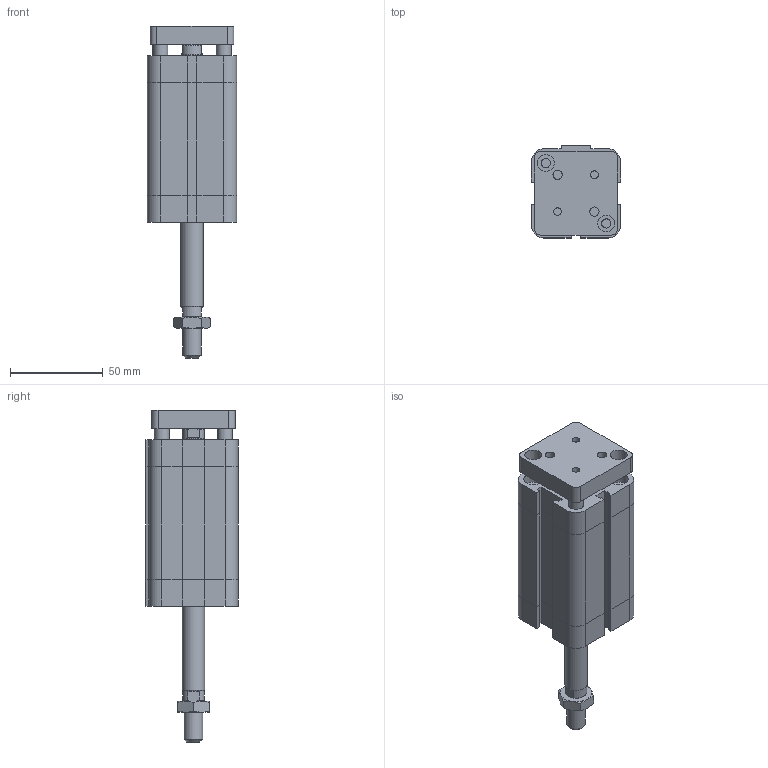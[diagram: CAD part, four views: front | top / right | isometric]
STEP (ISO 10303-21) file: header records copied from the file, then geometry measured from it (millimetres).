
FILE_DESCRIPTION((''),'2;1');
FILE_NAME('I:\Area Tecnica\Disegni\VARIE-3D\Componenti\EUROPE\15##_###_####_09_#\1561_32_0045_09_1.iam.stp','2009-04-20T15:36:08',(''),(''),'Autodesk Inventor 2009','Autodesk Inventor 2009','');
FILE_SCHEMA(('AUTOMOTIVE_DESIGN { 1 0 10303 214 1 1 1 1 }'));
Length unit declared in the file: millimetre
Products named in the file (4): 1561_32_0045_09_1; 1561_32_0045_08_1_C; 1561_32_0045_09_1_SA; DBFM10
Assembly tree (3 placements, depth 2):
  1561_32_0045_09_1
    1561_32_0045_08_1_C
    1561_32_0045_09_1_SA
    DBFM10
Bounding box: 48 x 49.5 x 178.5 mm (x, y, z)
Volume: 215068.8 mm3; surface area: 48674.6 mm2
Topology: 3 solids, 3 shells, 209 faces, 470 edges, 287 vertices
Faces by surface type: plane 120, bspline 45, cylinder 23, cone 21
Full cylindrical faces by diameter (mm): 8 x2, 8.8 x1, 10 x1, 11.7 x2, 12 x1
Entity records: 5963 total; most frequent: CARTESIAN_POINT 1453, DIRECTION 838, ORIENTED_EDGE 834, EDGE_CURVE 417, AXIS2_PLACEMENT_3D 282, EDGE_LOOP 282, VECTOR 274, LINE 274
